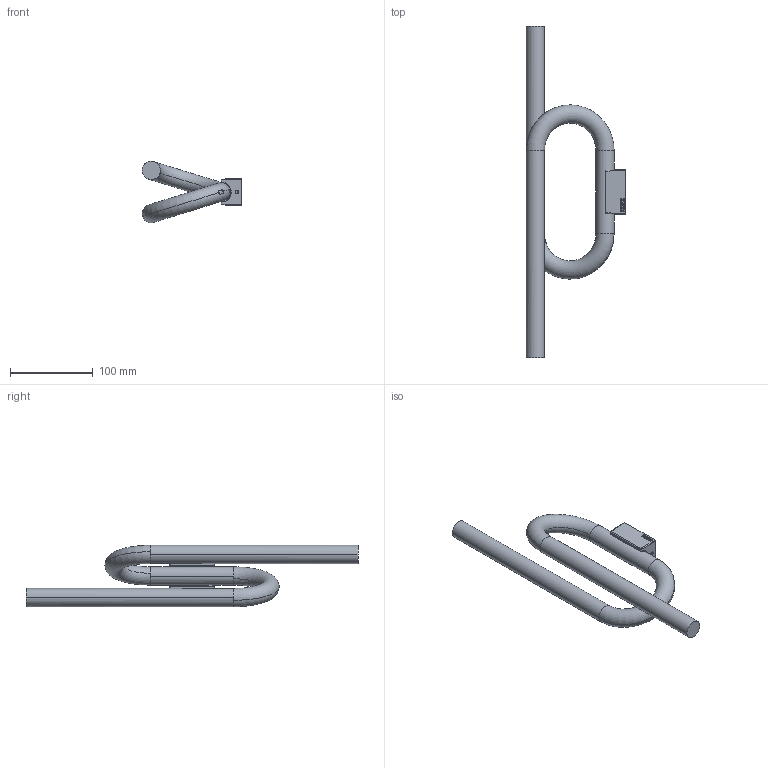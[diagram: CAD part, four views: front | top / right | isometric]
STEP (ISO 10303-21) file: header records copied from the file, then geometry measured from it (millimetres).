
FILE_DESCRIPTION (( 'STEP AP203' ), '1' );
FILE_NAME ('TOBIA_parete_spina.STEP', '2020-03-17T10:07:41', ( '' ), ( '' ), 'SwSTEP 2.0', 'SolidWorks 2020', '' );
FILE_SCHEMA (( 'CONFIG_CONTROL_DESIGN' ));
Length unit declared in the file: millimetre
Products named in the file (1): TOBIA_parete_spina
Bounding box: 120 x 400 x 74 mm (x, y, z)
Volume: 365264.6 mm3; surface area: 65720.3 mm2
Topology: 1 solids, 1 shells, 176 faces, 445 edges, 284 vertices
Faces by surface type: plane 96, bspline 38, cylinder 27, sphere 8, torus 5, cone 2
Entity records: 5816 total; most frequent: CARTESIAN_POINT 1788, ORIENTED_EDGE 890, DIRECTION 687, EDGE_CURVE 445, LINE 285, VECTOR 285, VERTEX_POINT 284, AXIS2_PLACEMENT_3D 201
